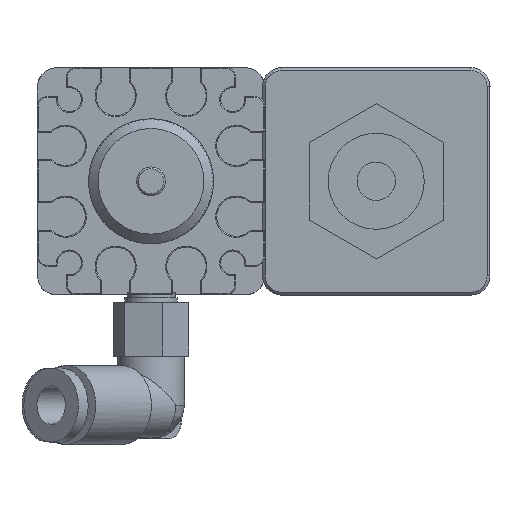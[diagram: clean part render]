
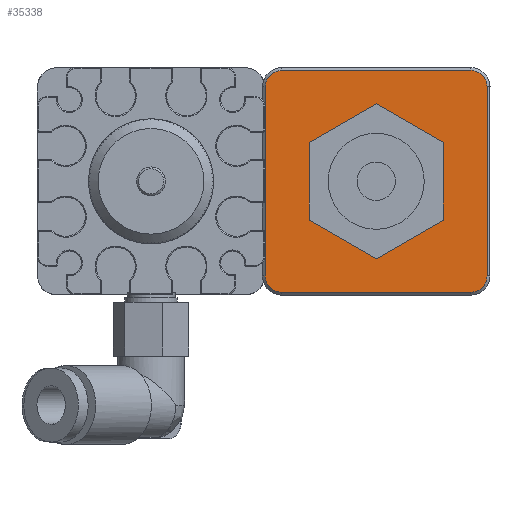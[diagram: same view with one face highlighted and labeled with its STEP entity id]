
A CAD part, left-side view. The second image highlights one B-rep face of the part: STEP entity #35338.
In plain terms, the highlighted planar face has unit normal (-1, 0, 0).
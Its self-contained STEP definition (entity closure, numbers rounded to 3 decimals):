
#350 = VERTEX_POINT ( 'NONE', #6346 ) ;
#443 = CARTESIAN_POINT ( 'NONE',  ( 0., -7., -4.041 ) ) ;
#2192 = ORIENTED_EDGE ( 'NONE', *, *, #28665, .T. ) ;
#2200 = VERTEX_POINT ( 'NONE', #18502 ) ;
#2327 = VERTEX_POINT ( 'NONE', #9662 ) ;
#2879 = DIRECTION ( 'NONE',  ( 0., 1., 0. ) ) ;
#3396 = VERTEX_POINT ( 'NONE', #11819 ) ;
#3438 = DIRECTION ( 'NONE',  ( 0., 0., -1. ) ) ;
#3561 = ORIENTED_EDGE ( 'NONE', *, *, #16681, .T. ) ;
#5156 = ORIENTED_EDGE ( 'NONE', *, *, #9330, .F. ) ;
#5598 = DIRECTION ( 'NONE',  ( 0., 0.866, 0.5 ) ) ;
#6029 = EDGE_CURVE ( 'NONE', #28479, #38560, #36091, .T. ) ;
#6345 = DIRECTION ( 'NONE',  ( 1., 0., 0. ) ) ;
#6346 = CARTESIAN_POINT ( 'NONE',  ( 0., 11.55, 9.85 ) ) ;
#6406 = CARTESIAN_POINT ( 'NONE',  ( 0., 9.85, -9.85 ) ) ;
#6764 = VERTEX_POINT ( 'NONE', #18124 ) ;
#6849 = DIRECTION ( 'NONE',  ( 1., 0., 0. ) ) ;
#7906 = CARTESIAN_POINT ( 'NONE',  ( 0., -11.55, -11.85 ) ) ;
#8125 = CARTESIAN_POINT ( 'NONE',  ( 0., -11.55, 9.85 ) ) ;
#8130 = CARTESIAN_POINT ( 'NONE',  ( 0., 0., 0. ) ) ;
#8214 = AXIS2_PLACEMENT_3D ( 'NONE', #22186, #6345, #15557 ) ;
#8582 = CARTESIAN_POINT ( 'NONE',  ( 0., 7., 4.041 ) ) ;
#8700 = VERTEX_POINT ( 'NONE', #38386 ) ;
#9034 = ORIENTED_EDGE ( 'NONE', *, *, #27649, .F. ) ;
#9106 = ORIENTED_EDGE ( 'NONE', *, *, #25189, .F. ) ;
#9108 = CARTESIAN_POINT ( 'NONE',  ( 0., 11.85, -11.55 ) ) ;
#9227 = DIRECTION ( 'NONE',  ( 1., 0., 0. ) ) ;
#9232 = DIRECTION ( 'NONE',  ( 0., -0.866, -0.5 ) ) ;
#9330 = EDGE_CURVE ( 'NONE', #2200, #9575, #10773, .T. ) ;
#9575 = VERTEX_POINT ( 'NONE', #8125 ) ;
#9662 = CARTESIAN_POINT ( 'NONE',  ( 0., 9.85, 11.55 ) ) ;
#9736 = CIRCLE ( 'NONE', #33546, 1.7 ) ;
#10043 = CARTESIAN_POINT ( 'NONE',  ( 0., -9.85, -9.85 ) ) ;
#10667 = CARTESIAN_POINT ( 'NONE',  ( 0., -7., 0. ) ) ;
#10773 = CIRCLE ( 'NONE', #8214, 1.7 ) ;
#11124 = VERTEX_POINT ( 'NONE', #35578 ) ;
#11247 = CARTESIAN_POINT ( 'NONE',  ( 0., 7., 4.041 ) ) ;
#11328 = EDGE_LOOP ( 'NONE', ( #22362, #9106, #12774, #33009, #16028, #5156, #22793, #9034 ) ) ;
#11725 = EDGE_CURVE ( 'NONE', #3396, #28479, #33291, .T. ) ;
#11819 = CARTESIAN_POINT ( 'NONE',  ( 0., 7., -4.041 ) ) ;
#11877 = DIRECTION ( 'NONE',  ( 0., 0.866, -0.5 ) ) ;
#12206 = AXIS2_PLACEMENT_3D ( 'NONE', #8130, #38831, #14153 ) ;
#12303 = VERTEX_POINT ( 'NONE', #15372 ) ;
#12774 = ORIENTED_EDGE ( 'NONE', *, *, #30233, .F. ) ;
#13692 = LINE ( 'NONE', #10667, #14086 ) ;
#14086 = VECTOR ( 'NONE', #35190, 1000. ) ;
#14127 = LINE ( 'NONE', #7906, #16834 ) ;
#14153 = DIRECTION ( 'NONE',  ( 0., 0., 1. ) ) ;
#14237 = DIRECTION ( 'NONE',  ( 0., -1., 0. ) ) ;
#14808 = DIRECTION ( 'NONE',  ( 0., -0.866, 0.5 ) ) ;
#15366 = ORIENTED_EDGE ( 'NONE', *, *, #34624, .T. ) ;
#15372 = CARTESIAN_POINT ( 'NONE',  ( 0., 9.85, -11.55 ) ) ;
#15502 = CARTESIAN_POINT ( 'NONE',  ( 0., 0., 8.083 ) ) ;
#15557 = DIRECTION ( 'NONE',  ( 0., 0., -1. ) ) ;
#16028 = ORIENTED_EDGE ( 'NONE', *, *, #26114, .F. ) ;
#16681 = EDGE_CURVE ( 'NONE', #29288, #3396, #20850, .T. ) ;
#16834 = VECTOR ( 'NONE', #16921, 1000. ) ;
#16921 = DIRECTION ( 'NONE',  ( 0., 0., -1. ) ) ;
#17351 = PLANE ( 'NONE',  #12206 ) ;
#17949 = LINE ( 'NONE', #9108, #36343 ) ;
#18124 = CARTESIAN_POINT ( 'NONE',  ( 0., -9.85, -11.55 ) ) ;
#18502 = CARTESIAN_POINT ( 'NONE',  ( 0., -9.85, 11.55 ) ) ;
#19585 = VECTOR ( 'NONE', #30367, 1000. ) ;
#20850 = LINE ( 'NONE', #33095, #37296 ) ;
#20928 = CARTESIAN_POINT ( 'NONE',  ( 0., 11.55, -11.85 ) ) ;
#21084 = CARTESIAN_POINT ( 'NONE',  ( 0., 9.85, 9.85 ) ) ;
#21090 = LINE ( 'NONE', #27115, #29212 ) ;
#21655 = DIRECTION ( 'NONE',  ( 0., 0., -1. ) ) ;
#22186 = CARTESIAN_POINT ( 'NONE',  ( 0., -9.85, 9.85 ) ) ;
#22362 = ORIENTED_EDGE ( 'NONE', *, *, #28336, .F. ) ;
#22692 = ORIENTED_EDGE ( 'NONE', *, *, #6029, .T. ) ;
#22739 = AXIS2_PLACEMENT_3D ( 'NONE', #21084, #9227, #27108 ) ;
#22793 = ORIENTED_EDGE ( 'NONE', *, *, #22947, .F. ) ;
#22947 = EDGE_CURVE ( 'NONE', #2327, #2200, #35522, .T. ) ;
#23116 = VECTOR ( 'NONE', #11877, 1000. ) ;
#24362 = LINE ( 'NONE', #20928, #19585 ) ;
#25054 = CIRCLE ( 'NONE', #39136, 1.7 ) ;
#25189 = EDGE_CURVE ( 'NONE', #12303, #38581, #9736, .T. ) ;
#25662 = VECTOR ( 'NONE', #29874, 1000. ) ;
#26114 = EDGE_CURVE ( 'NONE', #9575, #8700, #14127, .T. ) ;
#26137 = CARTESIAN_POINT ( 'NONE',  ( 0., 0., -8.083 ) ) ;
#26967 = ORIENTED_EDGE ( 'NONE', *, *, #38578, .T. ) ;
#27108 = DIRECTION ( 'NONE',  ( 0., 0., -1. ) ) ;
#27115 = CARTESIAN_POINT ( 'NONE',  ( 0., 0., 8.083 ) ) ;
#27649 = EDGE_CURVE ( 'NONE', #350, #2327, #36835, .T. ) ;
#27955 = LINE ( 'NONE', #443, #23116 ) ;
#28336 = EDGE_CURVE ( 'NONE', #38581, #350, #24362, .T. ) ;
#28479 = VERTEX_POINT ( 'NONE', #11247 ) ;
#28546 = CARTESIAN_POINT ( 'NONE',  ( 0., -7., -4.041 ) ) ;
#28665 = EDGE_CURVE ( 'NONE', #38560, #11124, #21090, .T. ) ;
#29189 = VERTEX_POINT ( 'NONE', #28546 ) ;
#29212 = VECTOR ( 'NONE', #9232, 1000. ) ;
#29288 = VERTEX_POINT ( 'NONE', #26137 ) ;
#29484 = CARTESIAN_POINT ( 'NONE',  ( 0., 11.85, 11.55 ) ) ;
#29874 = DIRECTION ( 'NONE',  ( 0., 0., 1. ) ) ;
#30233 = EDGE_CURVE ( 'NONE', #6764, #12303, #17949, .T. ) ;
#30367 = DIRECTION ( 'NONE',  ( 0., 0., 1. ) ) ;
#32527 = VECTOR ( 'NONE', #14237, 1000. ) ;
#32712 = CARTESIAN_POINT ( 'NONE',  ( 0., 7., 0. ) ) ;
#32809 = FACE_OUTER_BOUND ( 'NONE', #11328, .T. ) ;
#33009 = ORIENTED_EDGE ( 'NONE', *, *, #35725, .F. ) ;
#33095 = CARTESIAN_POINT ( 'NONE',  ( 0., 0., -8.083 ) ) ;
#33104 = EDGE_LOOP ( 'NONE', ( #26967, #3561, #38517, #22692, #2192, #15366 ) ) ;
#33291 = LINE ( 'NONE', #32712, #25662 ) ;
#33546 = AXIS2_PLACEMENT_3D ( 'NONE', #6406, #34111, #21655 ) ;
#34111 = DIRECTION ( 'NONE',  ( 1., 0., 0. ) ) ;
#34624 = EDGE_CURVE ( 'NONE', #11124, #29189, #13692, .T. ) ;
#34959 = VECTOR ( 'NONE', #14808, 1000. ) ;
#35190 = DIRECTION ( 'NONE',  ( 0., 0., -1. ) ) ;
#35338 = ADVANCED_FACE ( 'NONE', ( #35627, #32809 ), #17351, .T. ) ;
#35522 = LINE ( 'NONE', #29484, #32527 ) ;
#35578 = CARTESIAN_POINT ( 'NONE',  ( 0., -7., 4.041 ) ) ;
#35627 = FACE_BOUND ( 'NONE', #33104, .T. ) ;
#35725 = EDGE_CURVE ( 'NONE', #8700, #6764, #25054, .T. ) ;
#36091 = LINE ( 'NONE', #8582, #34959 ) ;
#36343 = VECTOR ( 'NONE', #2879, 1000. ) ;
#36835 = CIRCLE ( 'NONE', #22739, 1.7 ) ;
#37296 = VECTOR ( 'NONE', #5598, 1000. ) ;
#38174 = CARTESIAN_POINT ( 'NONE',  ( 0., 11.55, -9.85 ) ) ;
#38386 = CARTESIAN_POINT ( 'NONE',  ( 0., -11.55, -9.85 ) ) ;
#38517 = ORIENTED_EDGE ( 'NONE', *, *, #11725, .T. ) ;
#38560 = VERTEX_POINT ( 'NONE', #15502 ) ;
#38578 = EDGE_CURVE ( 'NONE', #29189, #29288, #27955, .T. ) ;
#38581 = VERTEX_POINT ( 'NONE', #38174 ) ;
#38831 = DIRECTION ( 'NONE',  ( -1., 0., 0. ) ) ;
#39136 = AXIS2_PLACEMENT_3D ( 'NONE', #10043, #6849, #3438 ) ;
